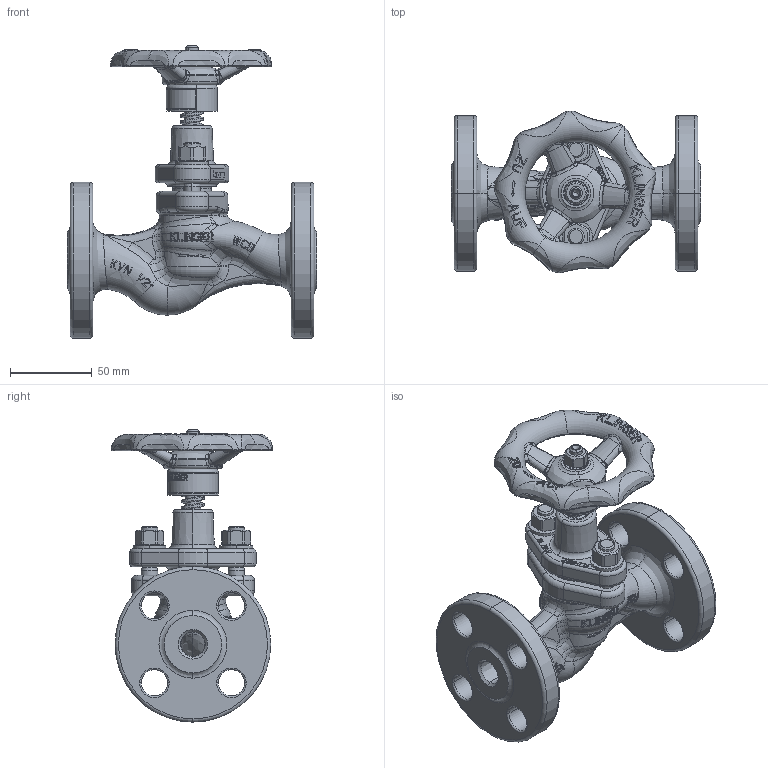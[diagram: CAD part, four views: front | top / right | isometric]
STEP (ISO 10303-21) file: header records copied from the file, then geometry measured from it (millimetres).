
FILE_DESCRIPTION((''),'2;1');
FILE_NAME('KVNFL-12S-----C300PGG_SW0001','2026-09-28T13:38:56',('jeitlers'),('KLINGER'),'CREO PARAMETRIC BY PTC INC, 2025443','CREO PARAMETRIC BY PTC INC, 2025443','');
FILE_SCHEMA(('CONFIG_CONTROL_DESIGN'));
Products named in the file (1): KVNFL-12S-----C300PGG_SW0001
Bounding box: 152 x 98.65 x 178.3 mm (x, y, z)
Volume: 397427.4 mm3; surface area: 111757.2 mm2
Topology: 2 solids, 9 shells, 2804 faces, 7471 edges, 4743 vertices
Faces by surface type: plane 1579, bspline 591, cylinder 301, torus 248, cone 81, sphere 4
Entity records: 153695 total; most frequent: CARTESIAN_POINT 90544, ORIENTED_EDGE 14934, DIRECTION 10499, EDGE_CURVE 7467, VERTEX_POINT 4743, AXIS2_PLACEMENT_3D 3641, VECTOR 3217, LINE 3217
